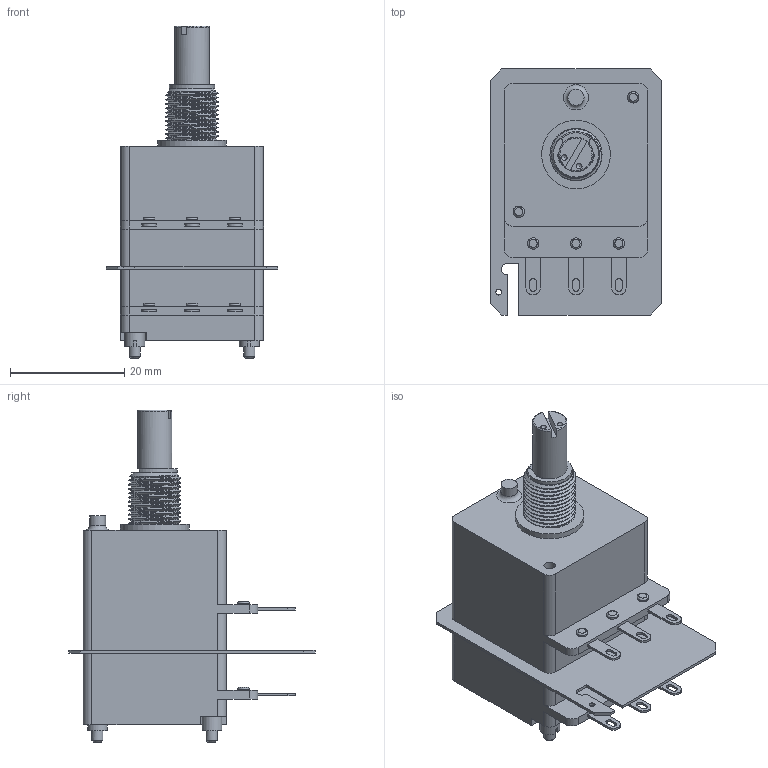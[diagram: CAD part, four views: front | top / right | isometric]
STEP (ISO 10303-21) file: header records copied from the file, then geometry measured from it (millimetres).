
FILE_DESCRIPTION(('FreeCAD Model'),'2;1');
FILE_NAME('Open CASCADE Shape Model','2026-07-14T16:58:48',(''),(''), 'Open CASCADE STEP processor 7.8','FreeCAD','Unknown');
FILE_SCHEMA(('AUTOMOTIVE_DESIGN { 1 0 10303 214 1 1 1 1 }'));
Length unit declared in the file: millimetre
Products named in the file (1): 2CP25XX-S-6SM20
Bounding box: 30 x 43 x 58 mm (x, y, z)
Volume: 22723.2 mm3; surface area: 8593.5 mm2
Topology: 1 solids, 10 shells, 302 faces, 763 edges, 500 vertices
Faces by surface type: plane 157, cylinder 89, bspline 38, torus 10, cone 6, sphere 2
Full cylindrical faces by diameter (mm): 1 x1, 1.9 x6, 2 x14, 2.2 x8, 2.8 x1, 3.5 x2, 4.5 x2, 5.4 x1, 6 x1, 6.05 x1, 8 x1, 9 x1, 12 x1
Entity records: 14769 total; most frequent: CARTESIAN_POINT 6002, ORIENTED_EDGE 1520, DIRECTION 1477, EDGE_CURVE 760, AXIS2_PLACEMENT_3D 558, VERTEX_POINT 500, LINE 361, VECTOR 361
